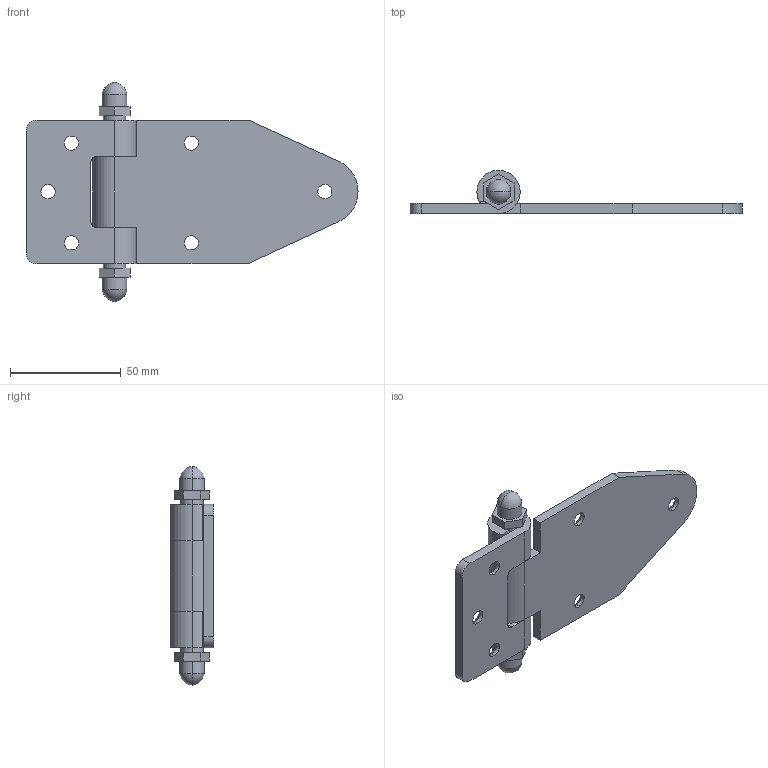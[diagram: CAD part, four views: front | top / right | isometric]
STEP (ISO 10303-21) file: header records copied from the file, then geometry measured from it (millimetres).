
FILE_DESCRIPTION (( 'STEP AP214' ), '1' );
FILE_NAME ('HT3106.STEP', '2023-08-24T00:28:54', ( '' ), ( '' ), 'SwSTEP 2.0', 'SolidWorks 2019', '' );
FILE_SCHEMA (( 'AUTOMOTIVE_DESIGN' ));
Length unit declared in the file: millimetre
Products named in the file (4): HT3106; 苤晚; 饜璃; 湮晚
Assembly tree (3 placements, depth 2):
  HT3106
    湮晚
    苤晚
    饜璃
Bounding box: 150 x 19.5 x 99 mm (x, y, z)
Volume: 54117.4 mm3; surface area: 28086.2 mm2
Topology: 3 solids, 3 shells, 94 faces, 242 edges, 154 vertices
Faces by surface type: cylinder 41, plane 37, cone 12, torus 4
Entity records: 3026 total; most frequent: DIRECTION 536, CARTESIAN_POINT 492, ORIENTED_EDGE 476, EDGE_CURVE 238, AXIS2_PLACEMENT_3D 198, VERTEX_POINT 154, VECTOR 140, LINE 140
